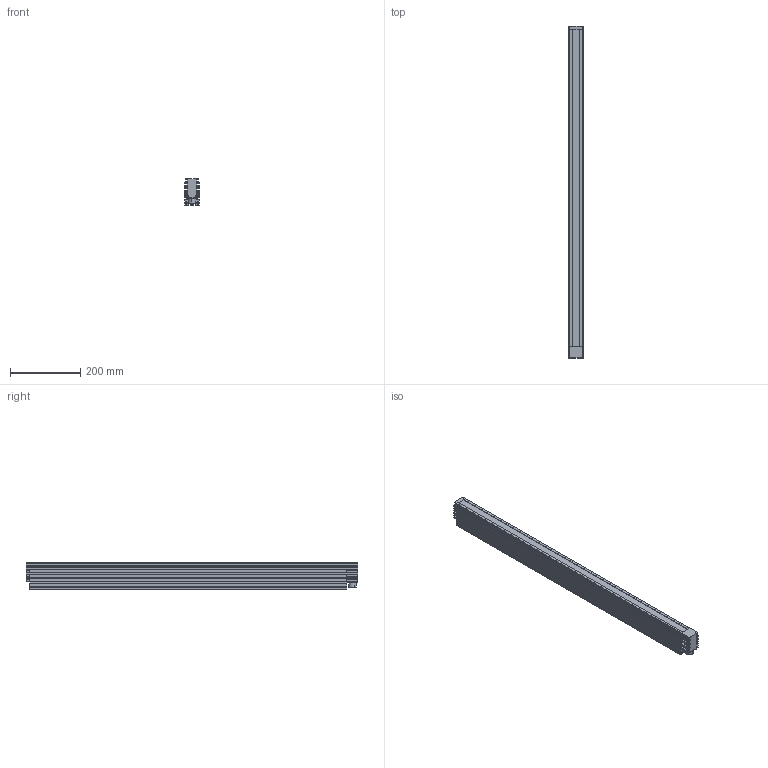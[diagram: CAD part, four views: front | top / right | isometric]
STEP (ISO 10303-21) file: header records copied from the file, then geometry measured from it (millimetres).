
FILE_DESCRIPTION (( 'STEP AP203' ), '1' );
FILE_NAME ('VLN (L_D_X)-900W _ Drawing _ L1262A (L1277A_L1293A_L1308A)-A00101.STEP', '2024-06-24T06:08:26', ( '' ), ( '' ), 'SwSTEP 2.0', 'SolidWorks 2020', '' );
FILE_SCHEMA (( 'CONFIG_CONTROL_DESIGN' ));
Length unit declared in the file: millimetre
Products named in the file (8): VLN-100W _ TMVLN0100D303A _ VLN 側蓋 _ L1254A-M00301 _ STEP 用; M2 X 35 柱頭 內六角 螺絲; Nanaboshi NAW-202-RF 板裝連接器 + 防水墊; TMVLN0100D301A _ VLN 0100 主體 _ STEP  用; M3 X 6 扁頭 螺絲; VLN-100W _ TMVLN0100D304A _ VLN ｳsｱｵｾｹｺﾝｰｼｻ\ _ L1254A-M00401_ STEP･ﾎ; VLN (L_D_X)-900W _ Drawing _ L1262A (L1277A_L1293A_L1308A)-A00101; M2 X 12 柱頭 內六角 螺絲
Assembly tree (24 placements, depth 2):
  VLN (L_D_X)-900W _ Drawing _ L1262A (L1277A_L1293A_L1308A)-A00101
    TMVLN0100D301A _ VLN 0100 主體 _ STEP  用
    VLN-100W _ TMVLN0100D303A _ VLN 側蓋 _ L1254A-M00301 _ STEP 用
    VLN-100W _ TMVLN0100D304A _ VLN ｳsｱｵｾｹｺﾝｰｼｻ\ _ L1254A-M00401_ STEP･ﾎ
    M2 X 12 柱頭 內六角 螺絲  x8
    M2 X 35 柱頭 內六角 螺絲  x8
    M3 X 6 扁頭 螺絲  x4
    Nanaboshi NAW-202-RF 板裝連接器 + 防水墊
Bounding box: 40 x 942 x 75 mm (x, y, z)
Volume: 2124207.5 mm3; surface area: 510649.6 mm2
Topology: 24 solids, 24 shells, 1158 faces, 2741 edges, 1722 vertices
Faces by surface type: plane 594, cylinder 372, torus 119, cone 48, bspline 21, sphere 4
Entity records: 26874 total; most frequent: CARTESIAN_POINT 6179, ORIENTED_EDGE 4050, DIRECTION 3981, EDGE_CURVE 2025, VECTOR 1375, LINE 1375, AXIS2_PLACEMENT_3D 1303, VERTEX_POINT 1280
